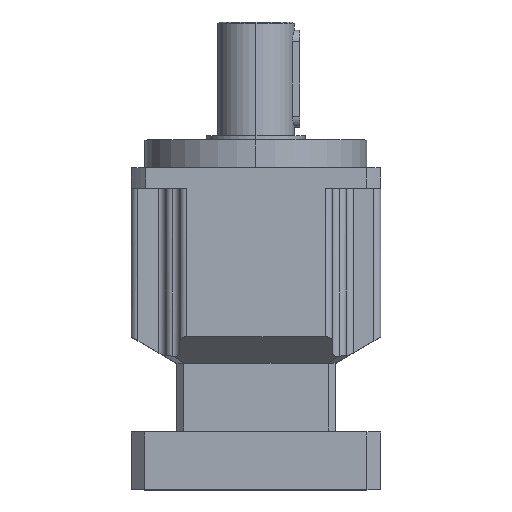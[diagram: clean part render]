
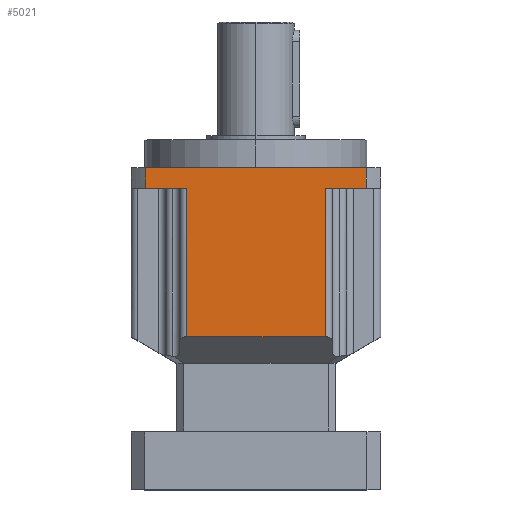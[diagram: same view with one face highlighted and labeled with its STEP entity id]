
A CAD part, top view. The second image highlights one B-rep face of the part: STEP entity #5021.
In plain terms, the highlighted planar face has unit normal (0, 0, 1).
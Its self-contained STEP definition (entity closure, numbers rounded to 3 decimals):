
#180 = VERTEX_POINT ( 'NONE', #2040 ) ;
#236 = DIRECTION ( 'NONE',  ( -1., 0., 0. ) ) ;
#434 = VERTEX_POINT ( 'NONE', #4746 ) ;
#516 = ORIENTED_EDGE ( 'NONE', *, *, #7087, .T. ) ;
#673 = ORIENTED_EDGE ( 'NONE', *, *, #7306, .T. ) ;
#874 = VERTEX_POINT ( 'NONE', #5272 ) ;
#1102 = VERTEX_POINT ( 'NONE', #1425 ) ;
#1255 = EDGE_CURVE ( 'NONE', #874, #1632, #3183, .T. ) ;
#1425 = CARTESIAN_POINT ( 'NONE',  ( -79.373, 232., 90. ) ) ;
#1498 = CARTESIAN_POINT ( 'NONE',  ( 0., 110.053, 90. ) ) ;
#1554 = DIRECTION ( 'NONE',  ( 0., -1., 0. ) ) ;
#1632 = VERTEX_POINT ( 'NONE', #2154 ) ;
#1699 = EDGE_LOOP ( 'NONE', ( #3702, #673, #6181, #4640, #4334, #2135, #516, #3845 ) ) ;
#1704 = DIRECTION ( 'NONE',  ( 0., 1., 0. ) ) ;
#1728 = CARTESIAN_POINT ( 'NONE',  ( -50., 110.053, 90. ) ) ;
#1744 = VECTOR ( 'NONE', #1554, 1000. ) ;
#1848 = VECTOR ( 'NONE', #1704, 1000. ) ;
#2040 = CARTESIAN_POINT ( 'NONE',  ( -79.373, 217., 90. ) ) ;
#2135 = ORIENTED_EDGE ( 'NONE', *, *, #4541, .T. ) ;
#2154 = CARTESIAN_POINT ( 'NONE',  ( 50., 110.053, 90. ) ) ;
#2173 = DIRECTION ( 'NONE',  ( 1., 0., 0. ) ) ;
#2405 = VECTOR ( 'NONE', #3896, 1000. ) ;
#2656 = VERTEX_POINT ( 'NONE', #1728 ) ;
#2890 = LINE ( 'NONE', #5319, #8858 ) ;
#3083 = DIRECTION ( 'NONE',  ( 0., -1., 0. ) ) ;
#3183 = LINE ( 'NONE', #7985, #1744 ) ;
#3542 = FACE_OUTER_BOUND ( 'NONE', #1699, .T. ) ;
#3624 = CARTESIAN_POINT ( 'NONE',  ( 79.373, 217., 90. ) ) ;
#3702 = ORIENTED_EDGE ( 'NONE', *, *, #5155, .T. ) ;
#3845 = ORIENTED_EDGE ( 'NONE', *, *, #4744, .T. ) ;
#3896 = DIRECTION ( 'NONE',  ( 0., -1., 0. ) ) ;
#4118 = VECTOR ( 'NONE', #3083, 1000. ) ;
#4151 = PLANE ( 'NONE',  #4220 ) ;
#4220 = AXIS2_PLACEMENT_3D ( 'NONE', #7135, #9192, #7076 ) ;
#4334 = ORIENTED_EDGE ( 'NONE', *, *, #8887, .T. ) ;
#4417 = CARTESIAN_POINT ( 'NONE',  ( 79.373, 232., 90. ) ) ;
#4533 = VERTEX_POINT ( 'NONE', #3624 ) ;
#4541 = EDGE_CURVE ( 'NONE', #434, #1102, #7501, .T. ) ;
#4630 = DIRECTION ( 'NONE',  ( 1., 0., 0. ) ) ;
#4640 = ORIENTED_EDGE ( 'NONE', *, *, #4827, .T. ) ;
#4744 = EDGE_CURVE ( 'NONE', #180, #5647, #2890, .T. ) ;
#4746 = CARTESIAN_POINT ( 'NONE',  ( 79.373, 232., 90. ) ) ;
#4827 = EDGE_CURVE ( 'NONE', #874, #4533, #7154, .T. ) ;
#5021 = ADVANCED_FACE ( 'NONE', ( #3542 ), #4151, .T. ) ;
#5042 = CARTESIAN_POINT ( 'NONE',  ( -50., 217., 90. ) ) ;
#5155 = EDGE_CURVE ( 'NONE', #5647, #2656, #5682, .T. ) ;
#5247 = VECTOR ( 'NONE', #6205, 1000. ) ;
#5272 = CARTESIAN_POINT ( 'NONE',  ( 50., 217., 90. ) ) ;
#5309 = VECTOR ( 'NONE', #2173, 1000. ) ;
#5319 = CARTESIAN_POINT ( 'NONE',  ( 79.373, 217., 90. ) ) ;
#5548 = LINE ( 'NONE', #6707, #1848 ) ;
#5647 = VERTEX_POINT ( 'NONE', #5042 ) ;
#5682 = LINE ( 'NONE', #8752, #4118 ) ;
#5923 = VECTOR ( 'NONE', #236, 1000. ) ;
#6169 = CARTESIAN_POINT ( 'NONE',  ( 79.373, 217., 90. ) ) ;
#6181 = ORIENTED_EDGE ( 'NONE', *, *, #1255, .F. ) ;
#6205 = DIRECTION ( 'NONE',  ( 1., 0., 0. ) ) ;
#6707 = CARTESIAN_POINT ( 'NONE',  ( 79.373, 110.053, 90. ) ) ;
#7076 = DIRECTION ( 'NONE',  ( 1., 0., 0. ) ) ;
#7087 = EDGE_CURVE ( 'NONE', #1102, #180, #7701, .T. ) ;
#7135 = CARTESIAN_POINT ( 'NONE',  ( 79.373, 110.053, 90. ) ) ;
#7154 = LINE ( 'NONE', #6169, #5247 ) ;
#7306 = EDGE_CURVE ( 'NONE', #2656, #1632, #7688, .T. ) ;
#7501 = LINE ( 'NONE', #4417, #5923 ) ;
#7513 = CARTESIAN_POINT ( 'NONE',  ( -79.373, 110.053, 90. ) ) ;
#7688 = LINE ( 'NONE', #1498, #5309 ) ;
#7701 = LINE ( 'NONE', #7513, #2405 ) ;
#7985 = CARTESIAN_POINT ( 'NONE',  ( 50., 41.5, 90. ) ) ;
#8752 = CARTESIAN_POINT ( 'NONE',  ( -50., 110.053, 90. ) ) ;
#8858 = VECTOR ( 'NONE', #4630, 1000. ) ;
#8887 = EDGE_CURVE ( 'NONE', #4533, #434, #5548, .T. ) ;
#9192 = DIRECTION ( 'NONE',  ( 0., 0., 1. ) ) ;
